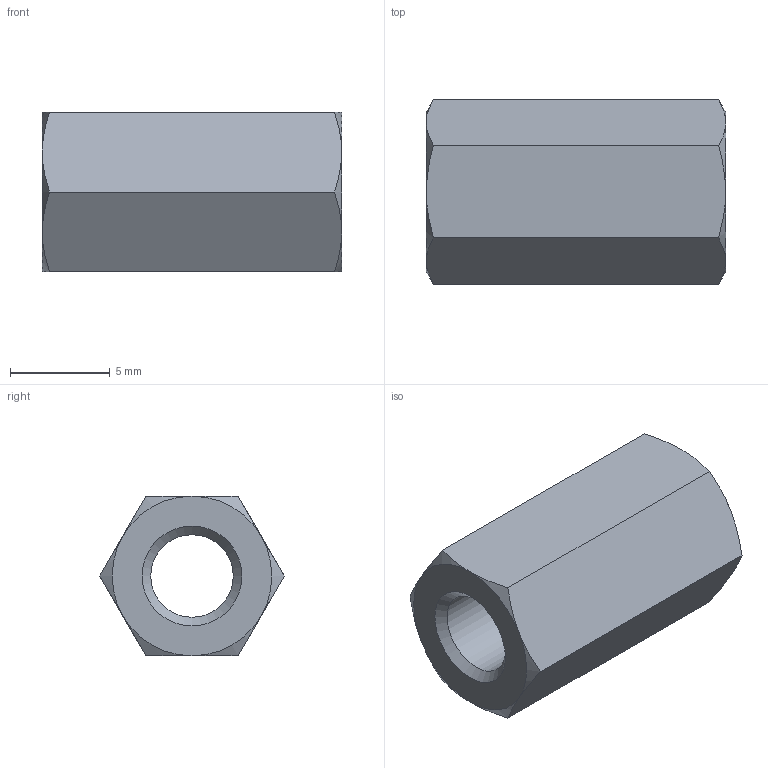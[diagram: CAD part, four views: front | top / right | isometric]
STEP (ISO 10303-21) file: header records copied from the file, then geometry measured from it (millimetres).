
FILE_DESCRIPTION( ( 'STEP AP203' ), '1' );
FILE_NAME( 'C:/Temp/Ganter_Step_05_03_2020/data/3_2/gn6220/gn6220_ni/Stainless Steel-Spacer GN 6220-NI-M5-15-A.stp', '2020-03-13T05:42:59', ( 'License CC BY-ND 4.0' ), ( 'CADENAS' ), ' ', 'PARTsolutions', ' ' );
FILE_SCHEMA( ( 'CONFIG_CONTROL_DESIGN' ) );
Length unit declared in the file: millimetre
Products named in the file (1): _Stainless Steel-Spacer GN 6220-NI-M5-15-A
Bounding box: 15 x 9.24 x 8 mm (x, y, z)
Volume: 626.3 mm3; surface area: 683.2 mm2
Topology: 1 solids, 1 shells, 23 faces, 49 edges, 28 vertices
Faces by surface type: cone 14, plane 8, cylinder 1
Full cylindrical faces by diameter (mm): 4.134 x1
Entity records: 696 total; most frequent: CARTESIAN_POINT 202, ORIENTED_EDGE 92, DIRECTION 86, EDGE_CURVE 46, AXIS2_PLACEMENT_3D 40, EDGE_LOOP 28, VERTEX_POINT 28, FACE_OUTER_BOUND 24
